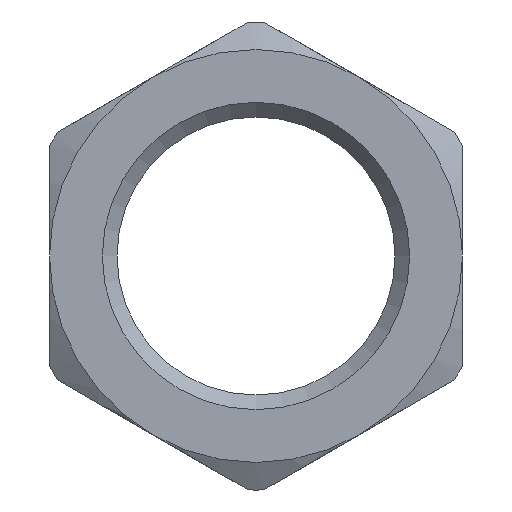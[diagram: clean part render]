
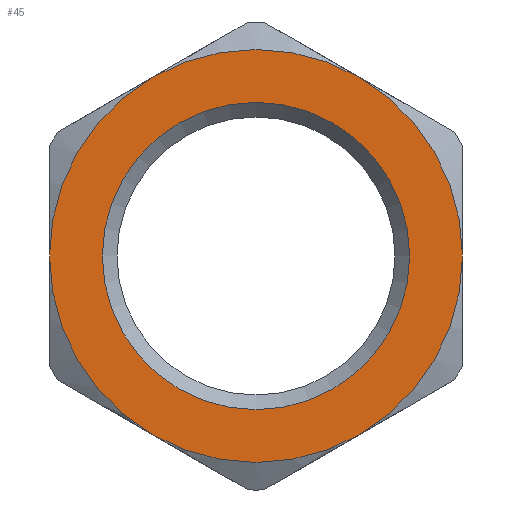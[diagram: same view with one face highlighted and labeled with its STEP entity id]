
A CAD part, front view. The second image highlights one B-rep face of the part: STEP entity #45.
In plain terms, the highlighted planar face has unit normal (0, -1, 0).
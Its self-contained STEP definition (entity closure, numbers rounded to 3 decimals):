
#45=ADVANCED_FACE('',(#76,#78),#80,.F.);
#76=FACE_BOUND('',#77,.T.);
#77=EDGE_LOOP('',(#246,#247,#248));
#78=FACE_BOUND('',#79,.T.);
#79=EDGE_LOOP('',(#249));
#80=PLANE('',#81);
#81=AXIS2_PLACEMENT_3D('',#82,#83,#84);
#82=CARTESIAN_POINT('',(0.,0.,0.));
#83=DIRECTION('',(0.,1.,0.));
#84=DIRECTION('',(-1.,0.,0.));
#246=ORIENTED_EDGE('',*,*,#344,.T.);
#247=ORIENTED_EDGE('',*,*,#345,.T.);
#248=ORIENTED_EDGE('',*,*,#346,.T.);
#249=ORIENTED_EDGE('',*,*,#347,.T.);
#344=EDGE_CURVE('',#395,#396,#397,.F.);
#345=EDGE_CURVE('',#396,#398,#399,.F.);
#346=EDGE_CURVE('',#398,#395,#400,.F.);
#347=EDGE_CURVE('',#401,#401,#402,.T.);
#395=VERTEX_POINT('',#484);
#396=VERTEX_POINT('',#485);
#397=CIRCLE('',#486,22.5);
#398=VERTEX_POINT('',#490);
#399=CIRCLE('',#491,22.5);
#400=CIRCLE('',#495,22.5);
#401=VERTEX_POINT('',#499);
#402=CIRCLE('',#500,16.746);
#484=CARTESIAN_POINT('',(22.5,0.,0.));
#485=CARTESIAN_POINT('',(-11.25,0.,19.486));
#486=AXIS2_PLACEMENT_3D('',#487,#488,#489);
#487=CARTESIAN_POINT('',(0.,0.,0.));
#488=DIRECTION('',(0.,1.,0.));
#489=DIRECTION('',(-0.5,0.,0.866));
#490=CARTESIAN_POINT('',(-22.5,0.,0.));
#491=AXIS2_PLACEMENT_3D('',#492,#493,#494);
#492=CARTESIAN_POINT('',(0.,0.,0.));
#493=DIRECTION('',(0.,1.,0.));
#494=DIRECTION('',(-1.,0.,0.));
#495=AXIS2_PLACEMENT_3D('',#496,#497,#498);
#496=CARTESIAN_POINT('',(0.,0.,0.));
#497=DIRECTION('',(0.,1.,0.));
#498=DIRECTION('',(1.,0.,0.));
#499=CARTESIAN_POINT('',(-16.746,0.,0.));
#500=AXIS2_PLACEMENT_3D('',#501,#502,#503);
#501=CARTESIAN_POINT('',(0.,0.,0.));
#502=DIRECTION('',(0.,1.,0.));
#503=DIRECTION('',(-1.,0.,0.));
